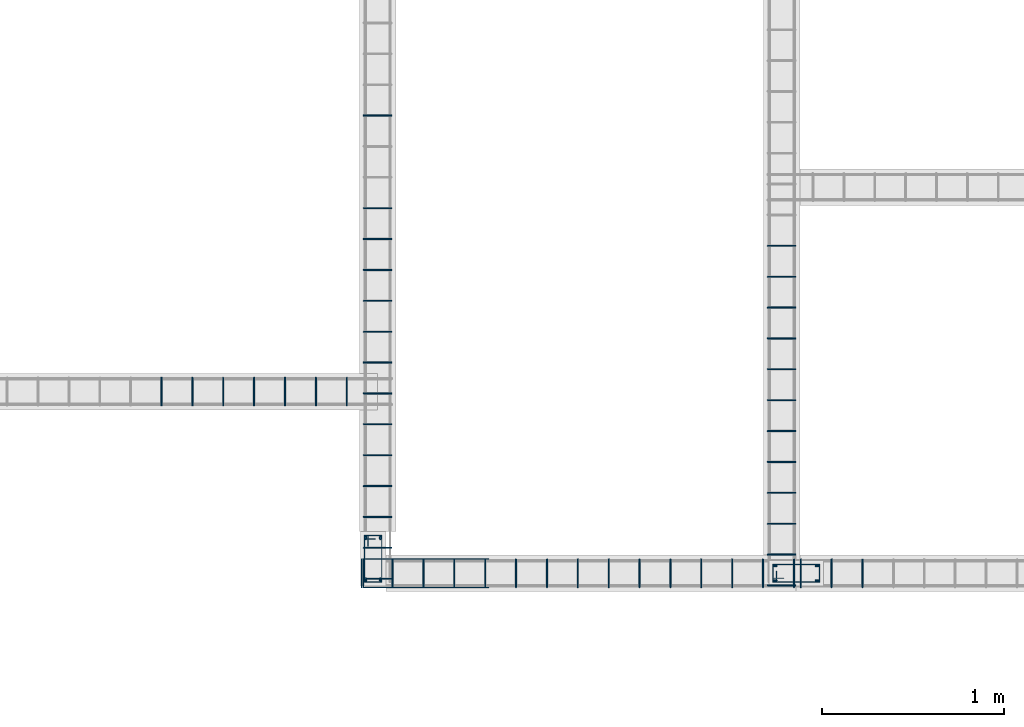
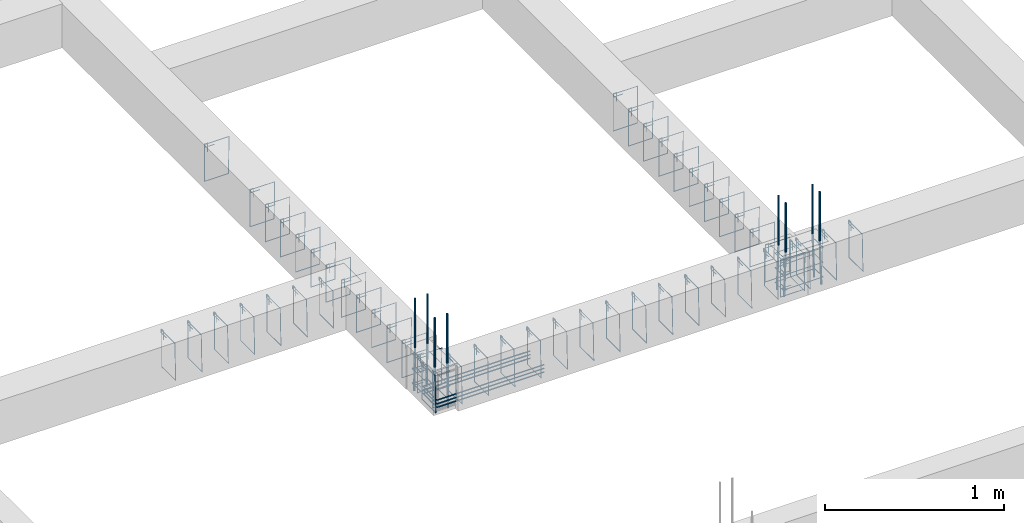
# One storey, part 44 of 150: 68 reinforcing bars.
"""IFC4 building model written with IfcOpenShell, lengths in centimetres."""

from ifc_helpers import new_model, entity, si_unit, derived_unit, frame, origin_with_axes, place, context, project, spatial, source, transform, mapped, element, save


model = new_model("IFC4")

# Units and contexts
model_context = context("Model", 3, precision=1e-05, world=origin_with_axes(), identifier="Body")
ifc_project = project(units=[si_unit("LENGTHUNIT", "METRE", prefix="CENTI"), si_unit("VOLUMEUNIT", "CUBIC_METRE"), si_unit("AREAUNIT", "SQUARE_METRE"), si_unit("POWERUNIT", "WATT"), si_unit("LUMINOUSFLUXUNIT", "LUMEN"), si_unit("ELECTRICCURRENTUNIT", "AMPERE"), si_unit("PRESSUREUNIT", "PASCAL", prefix="KILO"), si_unit("MASSUNIT", "GRAM", prefix="KILO"), si_unit("PLANEANGLEUNIT", "RADIAN"), derived_unit("VOLUMETRICFLOWRATEUNIT", [(si_unit("LENGTHUNIT", "METRE"), 3), (si_unit("TIMEUNIT", "SECOND"), -1)])], contexts=[model_context])

# Site, building, storey
site_placement = place(None, frame((-4000.0, 0.0, 0.0), z_axis=(0.0, 0.0, 1.0), x_axis=(1.0, 0.0, 0.0)))
site = spatial("IfcSite", under=ifc_project, at=site_placement, Name="PADRÃO")
building_placement = place(site_placement, frame((0.0, 0.0, -14.0)))
building = spatial("IfcBuilding", under=site, at=building_placement, Name="CRECHE PRÉ-ESCOLA TIPO 2")
placement = place(building_placement, origin_with_axes())
storey_placement = place(placement, frame((0.0, 0.0, 30.0), z_axis=(0.0, 0.0, 1.0), x_axis=(1.0, 0.0, 0.0)))
storey = spatial("IfcBuildingStorey", under=building, at=storey_placement, Name="VIGA BALDRAME", CompositionType="ELEMENT", Elevation=16.0)

# Reinforcing bars
shared_shape_1 = source(origin_with_axes(), model_context, "Body", "AdvancedSweptSolid", [
    entity("IfcSweptDiskSolid", entity("IfcCompositeCurve", [entity("IfcCompositeCurveSegment", "CONTINUOUS", True, entity("IfcPolyline", [entity("IfcCartesianPoint", [4.25, 21.75, 0.0]), entity("IfcCartesianPoint", [4.25, 27.75, 0.0])])), entity("IfcCompositeCurveSegment", "CONTINUOUS", True, entity("IfcPolyline", [entity("IfcCartesianPoint", [4.25, 27.75, 0.0]), entity("IfcCartesianPoint", [2.25, 27.75, 0.0])])), entity("IfcCompositeCurveSegment", "CONTINUOUS", True, entity("IfcPolyline", [entity("IfcCartesianPoint", [2.25, 27.75, 0.0]), entity("IfcCartesianPoint", [2.25, 2.25, 0.0])])), entity("IfcCompositeCurveSegment", "CONTINUOUS", True, entity("IfcPolyline", [entity("IfcCartesianPoint", [2.25, 2.25, 0.0]), entity("IfcCartesianPoint", [11.75, 2.25, 0.0])])), entity("IfcCompositeCurveSegment", "CONTINUOUS", True, entity("IfcPolyline", [entity("IfcCartesianPoint", [11.75, 2.25, 0.0]), entity("IfcCartesianPoint", [11.75, 27.75, -0.5])])), entity("IfcCompositeCurveSegment", "CONTINUOUS", True, entity("IfcPolyline", [entity("IfcCartesianPoint", [11.75, 27.75, -0.5]), entity("IfcCartesianPoint", [2.25, 27.75, -0.5])])), entity("IfcCompositeCurveSegment", "CONTINUOUS", True, entity("IfcPolyline", [entity("IfcCartesianPoint", [2.25, 27.75, -0.5]), entity("IfcCartesianPoint", [2.25, 25.75, -0.5])])), entity("IfcCompositeCurveSegment", "CONTINUOUS", True, entity("IfcPolyline", [entity("IfcCartesianPoint", [2.25, 25.75, -0.5]), entity("IfcCartesianPoint", [8.25, 25.75, -0.5])]))], False), 0.25),
])
for number, where, z_axis, x_axis, name in (
    (1, (2516.5, 408.02, -5.0), (0.0, 0.0, 1.0), (1.0, 0.0, 0.0), "P146 - Estribo"),
    (2, (2516.5, 408.02, -15.0), (0.0, 0.0, 1.0), (1.0, 0.0, 0.0), "P146 - Estribo"),
    (3, (2516.5, 408.02, -25.0), (0.0, 0.0, 1.0), (1.0, 0.0, 0.0), "P146 - Estribo"),
):
    element("IfcReinforcingBar", number, at=place(storey_placement, frame(where, z_axis=z_axis, x_axis=x_axis)), inside=storey, Name=name, BarLength=0.0, CrossSectionArea=1.9634954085e-05, NominalDiameter=0.5, PredefinedType="MAIN", context=model_context, shape_type="MappedRepresentation", body=[
        mapped(shared_shape_1, transform((0.0, 0.0, 0.0), scale=1.0)),
    ])
shared_shape_2 = source(origin_with_axes(), model_context, "Body", "AdvancedSweptSolid", [
    entity("IfcSweptDiskSolid", entity("IfcCompositeCurve", [entity("IfcCompositeCurveSegment", "CONTINUOUS", True, entity("IfcPolyline", [entity("IfcCartesianPoint", [4.25, 21.75, 0.0]), entity("IfcCartesianPoint", [4.25, 27.75, 0.0])])), entity("IfcCompositeCurveSegment", "CONTINUOUS", True, entity("IfcPolyline", [entity("IfcCartesianPoint", [4.25, 27.75, 0.0]), entity("IfcCartesianPoint", [2.25, 27.75, 0.0])])), entity("IfcCompositeCurveSegment", "CONTINUOUS", True, entity("IfcPolyline", [entity("IfcCartesianPoint", [2.25, 27.75, 0.0]), entity("IfcCartesianPoint", [2.25, 2.25, 0.0])])), entity("IfcCompositeCurveSegment", "CONTINUOUS", True, entity("IfcPolyline", [entity("IfcCartesianPoint", [2.25, 2.25, 0.0]), entity("IfcCartesianPoint", [11.75, 2.25, 0.0])])), entity("IfcCompositeCurveSegment", "CONTINUOUS", True, entity("IfcPolyline", [entity("IfcCartesianPoint", [11.75, 2.25, 0.0]), entity("IfcCartesianPoint", [11.75, 27.75, -0.5])])), entity("IfcCompositeCurveSegment", "CONTINUOUS", True, entity("IfcPolyline", [entity("IfcCartesianPoint", [11.75, 27.75, -0.5]), entity("IfcCartesianPoint", [2.25, 27.75, -0.5])])), entity("IfcCompositeCurveSegment", "CONTINUOUS", True, entity("IfcPolyline", [entity("IfcCartesianPoint", [2.25, 27.75, -0.5]), entity("IfcCartesianPoint", [2.25, 25.75, -0.5])])), entity("IfcCompositeCurveSegment", "CONTINUOUS", True, entity("IfcPolyline", [entity("IfcCartesianPoint", [2.25, 25.75, -0.5]), entity("IfcCartesianPoint", [8.25, 25.75, -0.5])]))], False), 0.25),
])
for number, where, z_axis, x_axis, name in (
    (4, (2771.46, 408.01, -5.0), (0.0, 0.0, 1.0), (0.0, 1.0, 0.0), "P147 - Estribo"),
    (5, (2771.46, 408.01, -15.0), (0.0, 0.0, 1.0), (0.0, 1.0, 0.0), "P147 - Estribo"),
    (6, (2771.46, 408.01, -25.0), (0.0, 0.0, 1.0), (0.0, 1.0, 0.0), "P147 - Estribo"),
):
    element("IfcReinforcingBar", number, at=place(storey_placement, frame(where, z_axis=z_axis, x_axis=x_axis)), inside=storey, Name=name, BarLength=0.0, CrossSectionArea=1.9634954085e-05, NominalDiameter=0.5, PredefinedType="MAIN", context=model_context, shape_type="MappedRepresentation", body=[
        mapped(shared_shape_2, transform((0.0, 0.0, 0.0), scale=1.0)),
    ])
shared_shape_3 = source(origin_with_axes(), model_context, "Body", "AdvancedSweptSolid", [
    entity("IfcSweptDiskSolid", entity("IfcCompositeCurve", [entity("IfcCompositeCurveSegment", "CONTINUOUS", True, entity("IfcPolyline", [entity("IfcCartesianPoint", [2.0, -6.0, 0.0]), entity("IfcCartesianPoint", [2.0, 0.0, 0.0])])), entity("IfcCompositeCurveSegment", "CONTINUOUS", True, entity("IfcPolyline", [entity("IfcCartesianPoint", [2.0, 0.0, 0.0]), entity("IfcCartesianPoint", [0.0, 0.0, 0.0])])), entity("IfcCompositeCurveSegment", "CONTINUOUS", True, entity("IfcPolyline", [entity("IfcCartesianPoint", [0.0, 0.0, 0.0]), entity("IfcCartesianPoint", [0.0, -25.5, 0.0])])), entity("IfcCompositeCurveSegment", "CONTINUOUS", True, entity("IfcPolyline", [entity("IfcCartesianPoint", [0.0, -25.5, 0.0]), entity("IfcCartesianPoint", [15.5, -25.5, 0.0])])), entity("IfcCompositeCurveSegment", "CONTINUOUS", True, entity("IfcPolyline", [entity("IfcCartesianPoint", [15.5, -25.5, 0.0]), entity("IfcCartesianPoint", [15.5, 0.0, 0.5])])), entity("IfcCompositeCurveSegment", "CONTINUOUS", True, entity("IfcPolyline", [entity("IfcCartesianPoint", [15.5, 0.0, 0.5]), entity("IfcCartesianPoint", [0.0, 0.0, 0.5])])), entity("IfcCompositeCurveSegment", "CONTINUOUS", True, entity("IfcPolyline", [entity("IfcCartesianPoint", [0.0, 0.0, 0.5]), entity("IfcCartesianPoint", [0.0, -2.0, 0.5])])), entity("IfcCompositeCurveSegment", "CONTINUOUS", True, entity("IfcPolyline", [entity("IfcCartesianPoint", [0.0, -2.0, 0.5]), entity("IfcCartesianPoint", [6.0, -2.0, 0.5])]))], False), 0.25),
])
for number, where, z_axis, x_axis, name in (
    (7, (2518.25, 616.27, -2.25), (0.0, -1.0, 0.0), (1.0, 0.0, 0.0), "V196 - Estribo"),
    (8, (2518.25, 599.27, -2.25), (0.0, -1.0, 0.0), (1.0, 0.0, 0.0), "V196 - Estribo"),
    (9, (2518.25, 582.27, -2.25), (0.0, -1.0, 0.0), (1.0, 0.0, 0.0), "V196 - Estribo"),
    (10, (2518.25, 565.27, -2.25), (0.0, -1.0, 0.0), (1.0, 0.0, 0.0), "V196 - Estribo"),
    (11, (2518.25, 548.27, -2.25), (0.0, -1.0, 0.0), (1.0, 0.0, 0.0), "V196 - Estribo"),
    (12, (2518.25, 531.27, -2.25), (0.0, -1.0, 0.0), (1.0, 0.0, 0.0), "V196 - Estribo"),
    (13, (2518.25, 514.27, -2.25), (0.0, -1.0, 0.0), (1.0, 0.0, 0.0), "V196 - Estribo"),
    (14, (2518.25, 497.27, -2.25), (0.0, -1.0, 0.0), (1.0, 0.0, 0.0), "V196 - Estribo"),
    (15, (2518.25, 480.27, -2.25), (0.0, -1.0, 0.0), (1.0, 0.0, 0.0), "V196 - Estribo"),
    (16, (2518.25, 463.27, -2.25), (0.0, -1.0, 0.0), (1.0, 0.0, 0.0), "V196 - Estribo"),
    (17, (2518.25, 446.27, -2.25), (0.0, -1.0, 0.0), (1.0, 0.0, 0.0), "V196 - Estribo"),
    (18, (2518.25, 429.27, -2.25), (0.0, -1.0, 0.0), (1.0, 0.0, 0.0), "V196 - Estribo"),
    (19, (2518.25, 412.27, -2.25), (0.0, -1.0, 0.0), (1.0, 0.0, 0.0), "V196 - Estribo"),
    (20, (2518.25, 667.27, -2.25), (0.0, -1.0, 0.0), (1.0, 0.0, 0.0), "V196 - Estribo"),
):
    element("IfcReinforcingBar", number, at=place(storey_placement, frame(where, z_axis=z_axis, x_axis=x_axis)), inside=storey, Name=name, BarLength=0.0, CrossSectionArea=1.9634954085e-05, NominalDiameter=0.5, PredefinedType="MAIN", context=model_context, shape_type="MappedRepresentation", body=[
        mapped(shared_shape_3, transform((0.0, 0.0, 0.0), scale=1.0)),
    ])
shared_shape_4 = source(origin_with_axes(), model_context, "Body", "AdvancedSweptSolid", [
    entity("IfcSweptDiskSolid", entity("IfcCompositeCurve", [entity("IfcCompositeCurveSegment", "CONTINUOUS", True, entity("IfcPolyline", [entity("IfcCartesianPoint", [2.0, -6.0, 0.0]), entity("IfcCartesianPoint", [2.0, 0.0, 0.0])])), entity("IfcCompositeCurveSegment", "CONTINUOUS", True, entity("IfcPolyline", [entity("IfcCartesianPoint", [2.0, 0.0, 0.0]), entity("IfcCartesianPoint", [0.0, 0.0, 0.0])])), entity("IfcCompositeCurveSegment", "CONTINUOUS", True, entity("IfcPolyline", [entity("IfcCartesianPoint", [0.0, 0.0, 0.0]), entity("IfcCartesianPoint", [0.0, -25.5, 0.0])])), entity("IfcCompositeCurveSegment", "CONTINUOUS", True, entity("IfcPolyline", [entity("IfcCartesianPoint", [0.0, -25.5, 0.0]), entity("IfcCartesianPoint", [15.5, -25.5, 0.0])])), entity("IfcCompositeCurveSegment", "CONTINUOUS", True, entity("IfcPolyline", [entity("IfcCartesianPoint", [15.5, -25.5, 0.0]), entity("IfcCartesianPoint", [15.5, 0.0, 0.5])])), entity("IfcCompositeCurveSegment", "CONTINUOUS", True, entity("IfcPolyline", [entity("IfcCartesianPoint", [15.5, 0.0, 0.5]), entity("IfcCartesianPoint", [0.0, 0.0, 0.5])])), entity("IfcCompositeCurveSegment", "CONTINUOUS", True, entity("IfcPolyline", [entity("IfcCartesianPoint", [0.0, 0.0, 0.5]), entity("IfcCartesianPoint", [0.0, -2.0, 0.5])])), entity("IfcCompositeCurveSegment", "CONTINUOUS", True, entity("IfcPolyline", [entity("IfcCartesianPoint", [0.0, -2.0, 0.5]), entity("IfcCartesianPoint", [6.0, -2.0, 0.5])]))], False), 0.25),
])
for number, where, z_axis, x_axis, name in (
    (21, (2551.48, 422.76, -2.25), (-1.0, 0.0, 0.0), (0.0, -1.0, 0.0), "V155 - Estribo"),
    (22, (2721.48, 422.76, -2.25), (-1.0, 0.0, 0.0), (0.0, -1.0, 0.0), "V155 - Estribo"),
    (23, (2755.48, 422.76, -2.25), (-1.0, 0.0, 0.0), (0.0, -1.0, 0.0), "V155 - Estribo"),
    (24, (2738.48, 422.76, -2.25), (-1.0, 0.0, 0.0), (0.0, -1.0, 0.0), "V155 - Estribo"),
    (25, (2517.48, 422.76, -2.25), (-1.0, 0.0, 0.0), (0.0, -1.0, 0.0), "V155 - Estribo"),
    (26, (2534.48, 422.76, -2.25), (-1.0, 0.0, 0.0), (0.0, -1.0, 0.0), "V155 - Estribo"),
    (27, (2704.48, 422.76, -2.25), (-1.0, 0.0, 0.0), (0.0, -1.0, 0.0), "V155 - Estribo"),
    (28, (2687.48, 422.76, -2.25), (-1.0, 0.0, 0.0), (0.0, -1.0, 0.0), "V155 - Estribo"),
    (29, (2670.48, 422.76, -2.25), (-1.0, 0.0, 0.0), (0.0, -1.0, 0.0), "V155 - Estribo"),
    (30, (2653.48, 422.76, -2.25), (-1.0, 0.0, 0.0), (0.0, -1.0, 0.0), "V155 - Estribo"),
    (31, (2636.48, 422.76, -2.25), (-1.0, 0.0, 0.0), (0.0, -1.0, 0.0), "V155 - Estribo"),
    (32, (2619.48, 422.76, -2.25), (-1.0, 0.0, 0.0), (0.0, -1.0, 0.0), "V155 - Estribo"),
    (33, (2602.48, 422.76, -2.25), (-1.0, 0.0, 0.0), (0.0, -1.0, 0.0), "V155 - Estribo"),
    (34, (2568.48, 422.76, -2.25), (-1.0, 0.0, 0.0), (0.0, -1.0, 0.0), "V155 - Estribo"),
    (35, (2585.48, 422.76, -2.25), (-1.0, 0.0, 0.0), (0.0, -1.0, 0.0), "V155 - Estribo"),
):
    element("IfcReinforcingBar", number, at=place(storey_placement, frame(where, z_axis=z_axis, x_axis=x_axis)), inside=storey, Name=name, BarLength=0.0, CrossSectionArea=1.9634954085e-05, NominalDiameter=0.5, PredefinedType="MAIN", context=model_context, shape_type="MappedRepresentation", body=[
        mapped(shared_shape_4, transform((0.0, 0.0, 0.0), scale=1.0)),
    ])
shared_shape_5 = source(origin_with_axes(), model_context, "Body", "AdvancedSweptSolid", [
    entity("IfcSweptDiskSolid", entity("IfcCompositeCurve", [entity("IfcCompositeCurveSegment", "CONTINUOUS", True, entity("IfcPolyline", [entity("IfcCartesianPoint", [2.0, -6.0, 0.0]), entity("IfcCartesianPoint", [2.0, 0.0, 0.0])])), entity("IfcCompositeCurveSegment", "CONTINUOUS", True, entity("IfcPolyline", [entity("IfcCartesianPoint", [2.0, 0.0, 0.0]), entity("IfcCartesianPoint", [0.0, 0.0, 0.0])])), entity("IfcCompositeCurveSegment", "CONTINUOUS", True, entity("IfcPolyline", [entity("IfcCartesianPoint", [0.0, 0.0, 0.0]), entity("IfcCartesianPoint", [0.0, -25.5, 0.0])])), entity("IfcCompositeCurveSegment", "CONTINUOUS", True, entity("IfcPolyline", [entity("IfcCartesianPoint", [0.0, -25.5, 0.0]), entity("IfcCartesianPoint", [15.5, -25.5, 0.0])])), entity("IfcCompositeCurveSegment", "CONTINUOUS", True, entity("IfcPolyline", [entity("IfcCartesianPoint", [15.5, -25.5, 0.0]), entity("IfcCartesianPoint", [15.5, 0.0, 0.5])])), entity("IfcCompositeCurveSegment", "CONTINUOUS", True, entity("IfcPolyline", [entity("IfcCartesianPoint", [15.5, 0.0, 0.5]), entity("IfcCartesianPoint", [0.0, 0.0, 0.5])])), entity("IfcCompositeCurveSegment", "CONTINUOUS", True, entity("IfcPolyline", [entity("IfcCartesianPoint", [0.0, 0.0, 0.5]), entity("IfcCartesianPoint", [0.0, -2.0, 0.5])])), entity("IfcCompositeCurveSegment", "CONTINUOUS", True, entity("IfcPolyline", [entity("IfcCartesianPoint", [0.0, -2.0, 0.5]), entity("IfcCartesianPoint", [6.0, -2.0, 0.5])]))], False), 0.25),
])
for number, where, z_axis, x_axis, name in (
    (36, (2793.23, 422.76, -2.25), (-1.0, 0.0, 0.0), (0.0, -1.0, 0.0), "V155 - Estribo"),
    (37, (2776.23, 422.76, -2.25), (-1.0, 0.0, 0.0), (0.0, -1.0, 0.0), "V155 - Estribo"),
    (38, (2759.23, 422.76, -2.25), (-1.0, 0.0, 0.0), (0.0, -1.0, 0.0), "V155 - Estribo"),
):
    element("IfcReinforcingBar", number, at=place(storey_placement, frame(where, z_axis=z_axis, x_axis=x_axis)), inside=storey, Name=name, BarLength=0.0, CrossSectionArea=1.9634954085e-05, NominalDiameter=0.5, PredefinedType="MAIN", context=model_context, shape_type="MappedRepresentation", body=[
        mapped(shared_shape_5, transform((0.0, 0.0, 0.0), scale=1.0)),
    ])
shared_shape_6 = source(origin_with_axes(), model_context, "Body", "AdvancedSweptSolid", [
    entity("IfcSweptDiskSolid", entity("IfcCompositeCurve", [entity("IfcCompositeCurveSegment", "CONTINUOUS", True, entity("IfcPolyline", [entity("IfcCartesianPoint", [0.0, 0.0, 0.0]), entity("IfcCartesianPoint", [-68.9569359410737, 0.0, 0.0])])), entity("IfcCompositeCurveSegment", "CONTINUOUS", True, entity("IfcPolyline", [entity("IfcCartesianPoint", [-68.9569359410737, 0.0, 0.0]), entity("IfcCartesianPoint", [-68.9569359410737, -15.5, 0.0])])), entity("IfcCompositeCurveSegment", "CONTINUOUS", True, entity("IfcPolyline", [entity("IfcCartesianPoint", [-68.9569359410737, -15.5, 0.0]), entity("IfcCartesianPoint", [0.0, -15.5, 0.0])]))], False), 0.25),
])
for number, where, z_axis, x_axis, name in (
    (39, (2587.20693594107, 422.76, -19.375), (0.0, 0.0, 1.0), (1.0, 0.0, 0.0), "V155 - Grampo"),
    (40, (2587.20693594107, 422.76, -24.375), (0.0, 0.0, 1.0), (1.0, 0.0, 0.0), "V155 - Grampo"),
    (41, (2587.20693594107, 422.76, -21.875), (0.0, 0.0, 1.0), (1.0, 0.0, 0.0), "V155 - Grampo"),
):
    element("IfcReinforcingBar", number, at=place(storey_placement, frame(where, z_axis=z_axis, x_axis=x_axis)), inside=storey, Name=name, BarLength=0.0, CrossSectionArea=1.9634954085e-05, NominalDiameter=0.5, PredefinedType="MAIN", context=model_context, shape_type="MappedRepresentation", body=[
        mapped(shared_shape_6, transform((0.0, 0.0, 0.0), scale=1.0)),
    ])
shared_shape_7 = source(origin_with_axes(), model_context, "Body", "AdvancedSweptSolid", [
    entity("IfcSweptDiskSolid", entity("IfcCompositeCurve", [entity("IfcCompositeCurveSegment", "CONTINUOUS", True, entity("IfcPolyline", [entity("IfcCartesianPoint", [2.0, -6.0, 0.0]), entity("IfcCartesianPoint", [2.0, 0.0, 0.0])])), entity("IfcCompositeCurveSegment", "CONTINUOUS", True, entity("IfcPolyline", [entity("IfcCartesianPoint", [2.0, 0.0, 0.0]), entity("IfcCartesianPoint", [0.0, 0.0, 0.0])])), entity("IfcCompositeCurveSegment", "CONTINUOUS", True, entity("IfcPolyline", [entity("IfcCartesianPoint", [0.0, 0.0, 0.0]), entity("IfcCartesianPoint", [0.0, -25.5, 0.0])])), entity("IfcCompositeCurveSegment", "CONTINUOUS", True, entity("IfcPolyline", [entity("IfcCartesianPoint", [0.0, -25.5, 0.0]), entity("IfcCartesianPoint", [15.5, -25.5, 0.0])])), entity("IfcCompositeCurveSegment", "CONTINUOUS", True, entity("IfcPolyline", [entity("IfcCartesianPoint", [15.5, -25.5, 0.0]), entity("IfcCartesianPoint", [15.5, 0.0, 0.5])])), entity("IfcCompositeCurveSegment", "CONTINUOUS", True, entity("IfcPolyline", [entity("IfcCartesianPoint", [15.5, 0.0, 0.5]), entity("IfcCartesianPoint", [0.0, 0.0, 0.5])])), entity("IfcCompositeCurveSegment", "CONTINUOUS", True, entity("IfcPolyline", [entity("IfcCartesianPoint", [0.0, 0.0, 0.5]), entity("IfcCartesianPoint", [0.0, -2.0, 0.5])])), entity("IfcCompositeCurveSegment", "CONTINUOUS", True, entity("IfcPolyline", [entity("IfcCartesianPoint", [0.0, -2.0, 0.5]), entity("IfcCartesianPoint", [6.0, -2.0, 0.5])]))], False), 0.25),
])
for number, where, z_axis, x_axis, name in (
    (42, (2407.24, 522.77, -2.25), (-1.0, 0.0, 0.0), (0.0, -1.0, 0.0), "V151 - Estribo"),
    (43, (2475.24, 522.77, -2.25), (-1.0, 0.0, 0.0), (0.0, -1.0, 0.0), "V151 - Estribo"),
    (44, (2492.24, 522.77, -2.25), (-1.0, 0.0, 0.0), (0.0, -1.0, 0.0), "V151 - Estribo"),
    (45, (2458.24, 522.77, -2.25), (-1.0, 0.0, 0.0), (0.0, -1.0, 0.0), "V151 - Estribo"),
    (46, (2441.24, 522.77, -2.25), (-1.0, 0.0, 0.0), (0.0, -1.0, 0.0), "V151 - Estribo"),
    (47, (2424.24, 522.77, -2.25), (-1.0, 0.0, 0.0), (0.0, -1.0, 0.0), "V151 - Estribo"),
    (48, (2509.24, 522.77, -2.25), (-1.0, 0.0, 0.0), (0.0, -1.0, 0.0), "V151 - Estribo"),
):
    element("IfcReinforcingBar", number, at=place(storey_placement, frame(where, z_axis=z_axis, x_axis=x_axis)), inside=storey, Name=name, BarLength=0.0, CrossSectionArea=1.9634954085e-05, NominalDiameter=0.5, PredefinedType="MAIN", context=model_context, shape_type="MappedRepresentation", body=[
        mapped(shared_shape_7, transform((0.0, 0.0, 0.0), scale=1.0)),
    ])
shared_shape_8 = source(origin_with_axes(), model_context, "Body", "AdvancedSweptSolid", [
    entity("IfcSweptDiskSolid", entity("IfcCompositeCurve", [entity("IfcCompositeCurveSegment", "CONTINUOUS", True, entity("IfcPolyline", [entity("IfcCartesianPoint", [2.0, -6.0, 0.0]), entity("IfcCartesianPoint", [2.0, 0.0, 0.0])])), entity("IfcCompositeCurveSegment", "CONTINUOUS", True, entity("IfcPolyline", [entity("IfcCartesianPoint", [2.0, 0.0, 0.0]), entity("IfcCartesianPoint", [0.0, 0.0, 0.0])])), entity("IfcCompositeCurveSegment", "CONTINUOUS", True, entity("IfcPolyline", [entity("IfcCartesianPoint", [0.0, 0.0, 0.0]), entity("IfcCartesianPoint", [0.0, -25.5, 0.0])])), entity("IfcCompositeCurveSegment", "CONTINUOUS", True, entity("IfcPolyline", [entity("IfcCartesianPoint", [0.0, -25.5, 0.0]), entity("IfcCartesianPoint", [15.5, -25.5, 0.0])])), entity("IfcCompositeCurveSegment", "CONTINUOUS", True, entity("IfcPolyline", [entity("IfcCartesianPoint", [15.5, -25.5, 0.0]), entity("IfcCartesianPoint", [15.5, 0.0, 0.5])])), entity("IfcCompositeCurveSegment", "CONTINUOUS", True, entity("IfcPolyline", [entity("IfcCartesianPoint", [15.5, 0.0, 0.5]), entity("IfcCartesianPoint", [0.0, 0.0, 0.5])])), entity("IfcCompositeCurveSegment", "CONTINUOUS", True, entity("IfcPolyline", [entity("IfcCartesianPoint", [0.0, 0.0, 0.5]), entity("IfcCartesianPoint", [0.0, -2.0, 0.5])])), entity("IfcCompositeCurveSegment", "CONTINUOUS", True, entity("IfcPolyline", [entity("IfcCartesianPoint", [0.0, -2.0, 0.5]), entity("IfcCartesianPoint", [6.0, -2.0, 0.5])]))], False), 0.25),
])
for number, where, z_axis, x_axis, name in (
    (49, (2740.71, 510.545, -2.25), (0.0, -1.0, 0.0), (1.0, 0.0, 0.0), "V203 - Estribo"),
    (50, (2740.71, 527.545, -2.25), (0.0, -1.0, 0.0), (1.0, 0.0, 0.0), "V203 - Estribo"),
    (51, (2740.71, 544.545, -2.25), (0.0, -1.0, 0.0), (1.0, 0.0, 0.0), "V203 - Estribo"),
    (52, (2740.71, 578.545, -2.25), (0.0, -1.0, 0.0), (1.0, 0.0, 0.0), "V203 - Estribo"),
    (53, (2740.71, 595.545, -2.25), (0.0, -1.0, 0.0), (1.0, 0.0, 0.0), "V203 - Estribo"),
    (54, (2740.71, 425.545, -2.25), (0.0, -1.0, 0.0), (1.0, 0.0, 0.0), "V203 - Estribo"),
    (55, (2740.71, 408.545, -2.25), (0.0, -1.0, 0.0), (1.0, 0.0, 0.0), "V203 - Estribo"),
    (56, (2740.71, 442.545, -2.25), (0.0, -1.0, 0.0), (1.0, 0.0, 0.0), "V203 - Estribo"),
    (57, (2740.71, 459.545, -2.25), (0.0, -1.0, 0.0), (1.0, 0.0, 0.0), "V203 - Estribo"),
    (58, (2740.71, 476.545, -2.25), (0.0, -1.0, 0.0), (1.0, 0.0, 0.0), "V203 - Estribo"),
    (59, (2740.71, 561.545, -2.25), (0.0, -1.0, 0.0), (1.0, 0.0, 0.0), "V203 - Estribo"),
    (60, (2740.71, 493.545, -2.25), (0.0, -1.0, 0.0), (1.0, 0.0, 0.0), "V203 - Estribo"),
):
    element("IfcReinforcingBar", number, at=place(storey_placement, frame(where, z_axis=z_axis, x_axis=x_axis)), inside=storey, Name=name, BarLength=0.0, CrossSectionArea=1.9634954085e-05, NominalDiameter=0.5, PredefinedType="MAIN", context=model_context, shape_type="MappedRepresentation", body=[
        mapped(shared_shape_8, transform((0.0, 0.0, 0.0), scale=1.0)),
    ])
reinforcing_bar_1_placement = place(storey_placement, frame((2527.5, 411.520138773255, 33.3573001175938), z_axis=(0.0, 0.0, 1.0), x_axis=(1.0, 0.0, 0.0)))
element("IfcReinforcingBar", 61, at=reinforcing_bar_1_placement, inside=storey, Name="P146 - Longitudinal", BarLength=0.0, CrossSectionArea=7.853981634e-05, NominalDiameter=1.0, PredefinedType="MAIN", context=model_context, shape_type="AdvancedSweptSolid", body=[
    entity("IfcSweptDiskSolid", entity("IfcCompositeCurve", [entity("IfcCompositeCurveSegment", "CONTINUOUS", True, entity("IfcPolyline", [entity("IfcCartesianPoint", [0.0, -0.50013877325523, -63.3573001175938]), entity("IfcCartesianPoint", [0.0, 0.49986122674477, -33.3573001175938])])), entity("IfcCompositeCurveSegment", "CONTINUOUS", True, entity("IfcPolyline", [entity("IfcCartesianPoint", [0.0, 0.49986122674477, -33.3573001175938]), entity("IfcCartesianPoint", [0.0, 0.49986122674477, 0.0])]))], False), 0.5),
])
reinforcing_bar_2_placement = place(storey_placement, frame((2519.5, 434.519861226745, 33.3573001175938), z_axis=(0.0, 0.0, 1.0), x_axis=(1.0, 0.0, 0.0)))
element("IfcReinforcingBar", 62, at=reinforcing_bar_2_placement, inside=storey, Name="P146 - Longitudinal", BarLength=0.0, CrossSectionArea=7.853981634e-05, NominalDiameter=1.0, PredefinedType="MAIN", context=model_context, shape_type="AdvancedSweptSolid", body=[
    entity("IfcSweptDiskSolid", entity("IfcCompositeCurve", [entity("IfcCompositeCurveSegment", "CONTINUOUS", True, entity("IfcPolyline", [entity("IfcCartesianPoint", [0.0, 0.50013877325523, -63.3573001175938]), entity("IfcCartesianPoint", [0.0, -0.49986122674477, -33.3573001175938])])), entity("IfcCompositeCurveSegment", "CONTINUOUS", True, entity("IfcPolyline", [entity("IfcCartesianPoint", [0.0, -0.49986122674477, -33.3573001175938]), entity("IfcCartesianPoint", [0.0, -0.49986122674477, 0.0])]))], False), 0.5),
])
reinforcing_bar_3_placement = place(storey_placement, frame((2519.5, 411.520138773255, 33.3573001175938), z_axis=(0.0, 0.0, 1.0), x_axis=(1.0, 0.0, 0.0)))
element("IfcReinforcingBar", 63, at=reinforcing_bar_3_placement, inside=storey, Name="P146 - Longitudinal", BarLength=0.0, CrossSectionArea=7.853981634e-05, NominalDiameter=1.0, PredefinedType="MAIN", context=model_context, shape_type="AdvancedSweptSolid", body=[
    entity("IfcSweptDiskSolid", entity("IfcCompositeCurve", [entity("IfcCompositeCurveSegment", "CONTINUOUS", True, entity("IfcPolyline", [entity("IfcCartesianPoint", [0.0, -0.50013877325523, -63.3573001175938]), entity("IfcCartesianPoint", [0.0, 0.49986122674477, -33.3573001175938])])), entity("IfcCompositeCurveSegment", "CONTINUOUS", True, entity("IfcPolyline", [entity("IfcCartesianPoint", [0.0, 0.49986122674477, -33.3573001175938]), entity("IfcCartesianPoint", [0.0, 0.49986122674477, 0.0])]))], False), 0.5),
])
reinforcing_bar_4_placement = place(storey_placement, frame((2527.5, 434.519861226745, 33.3573001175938), z_axis=(0.0, 0.0, 1.0), x_axis=(1.0, 0.0, 0.0)))
element("IfcReinforcingBar", 64, at=reinforcing_bar_4_placement, inside=storey, Name="P146 - Longitudinal", BarLength=0.0, CrossSectionArea=7.853981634e-05, NominalDiameter=1.0, PredefinedType="MAIN", context=model_context, shape_type="AdvancedSweptSolid", body=[
    entity("IfcSweptDiskSolid", entity("IfcCompositeCurve", [entity("IfcCompositeCurveSegment", "CONTINUOUS", True, entity("IfcPolyline", [entity("IfcCartesianPoint", [0.0, 0.50013877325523, -63.3573001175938]), entity("IfcCartesianPoint", [0.0, -0.49986122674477, -33.3573001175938])])), entity("IfcCompositeCurveSegment", "CONTINUOUS", True, entity("IfcPolyline", [entity("IfcCartesianPoint", [0.0, -0.49986122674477, -33.3573001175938]), entity("IfcCartesianPoint", [0.0, -0.49986122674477, 0.0])]))], False), 0.5),
])
reinforcing_bar_5_placement = place(storey_placement, frame((2767.95986122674, 419.01, 33.3573001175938), z_axis=(0.0, 0.0, 1.0), x_axis=(1.0, 0.0, 0.0)))
element("IfcReinforcingBar", 65, at=reinforcing_bar_5_placement, inside=storey, Name="P147 - Longitudinal", BarLength=0.0, CrossSectionArea=7.853981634e-05, NominalDiameter=1.0, PredefinedType="MAIN", context=model_context, shape_type="AdvancedSweptSolid", body=[
    entity("IfcSweptDiskSolid", entity("IfcCompositeCurve", [entity("IfcCompositeCurveSegment", "CONTINUOUS", True, entity("IfcPolyline", [entity("IfcCartesianPoint", [0.500138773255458, 0.0, -63.3573001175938]), entity("IfcCartesianPoint", [-0.499861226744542, 0.0, -33.3573001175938])])), entity("IfcCompositeCurveSegment", "CONTINUOUS", True, entity("IfcPolyline", [entity("IfcCartesianPoint", [-0.499861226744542, 0.0, -33.3573001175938]), entity("IfcCartesianPoint", [-0.499861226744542, 0.0, 0.0])]))], False), 0.5),
])
for number, where, z_axis, x_axis, name in (
    (66, (2744.96013877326, 419.01, 33.3573001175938), (0.0, 0.0, 1.0), (1.0, 0.0, 0.0), "P147 - Longitudinal"),
    (67, (2744.96013877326, 411.01, 33.3573001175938), (0.0, 0.0, 1.0), (1.0, 0.0, 0.0), "P147 - Longitudinal"),
):
    element("IfcReinforcingBar", number, at=place(storey_placement, frame(where, z_axis=z_axis, x_axis=x_axis)), inside=storey, Name=name, BarLength=0.0, CrossSectionArea=7.853981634e-05, NominalDiameter=1.0, PredefinedType="MAIN", context=model_context, shape_type="AdvancedSweptSolid", body=[
        entity("IfcSweptDiskSolid", entity("IfcCompositeCurve", [entity("IfcCompositeCurveSegment", "CONTINUOUS", True, entity("IfcPolyline", [entity("IfcCartesianPoint", [-0.500138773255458, 0.0, -63.3573001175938]), entity("IfcCartesianPoint", [0.499861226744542, 0.0, -33.3573001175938])])), entity("IfcCompositeCurveSegment", "CONTINUOUS", True, entity("IfcPolyline", [entity("IfcCartesianPoint", [0.499861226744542, 0.0, -33.3573001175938]), entity("IfcCartesianPoint", [0.499861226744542, 0.0, 0.0])]))], False), 0.5),
    ])
reinforcing_bar_6_placement = place(storey_placement, frame((2767.95986122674, 411.01, 33.3573001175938), z_axis=(0.0, 0.0, 1.0), x_axis=(1.0, 0.0, 0.0)))
element("IfcReinforcingBar", 68, at=reinforcing_bar_6_placement, inside=storey, Name="P147 - Longitudinal", BarLength=0.0, CrossSectionArea=7.853981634e-05, NominalDiameter=1.0, PredefinedType="MAIN", context=model_context, shape_type="AdvancedSweptSolid", body=[
    entity("IfcSweptDiskSolid", entity("IfcCompositeCurve", [entity("IfcCompositeCurveSegment", "CONTINUOUS", True, entity("IfcPolyline", [entity("IfcCartesianPoint", [0.500138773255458, 0.0, -63.3573001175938]), entity("IfcCartesianPoint", [-0.499861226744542, 0.0, -33.3573001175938])])), entity("IfcCompositeCurveSegment", "CONTINUOUS", True, entity("IfcPolyline", [entity("IfcCartesianPoint", [-0.499861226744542, 0.0, -33.3573001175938]), entity("IfcCartesianPoint", [-0.499861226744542, 0.0, 0.0])]))], False), 0.5),
])

save(model, "model.ifc")
